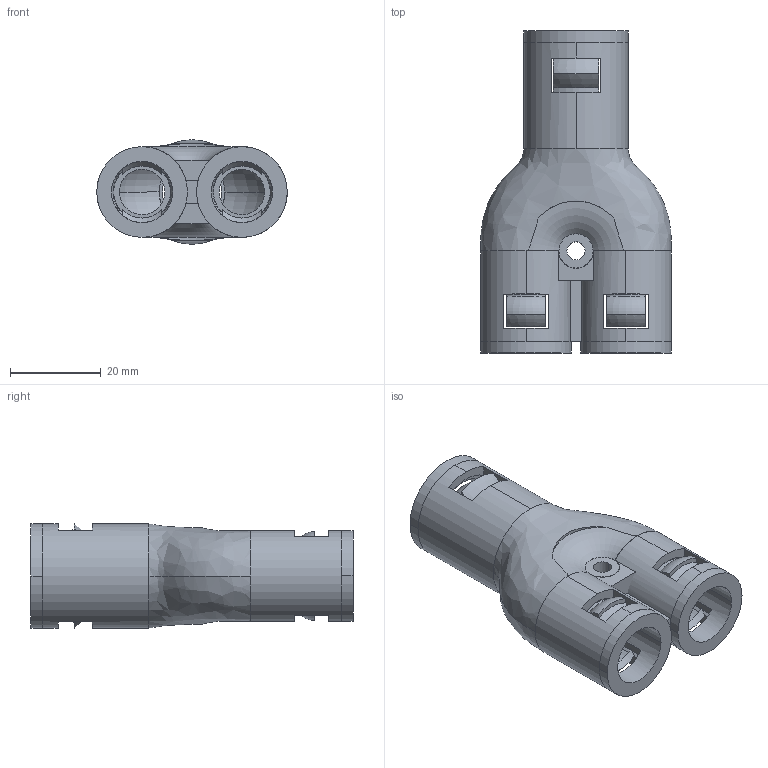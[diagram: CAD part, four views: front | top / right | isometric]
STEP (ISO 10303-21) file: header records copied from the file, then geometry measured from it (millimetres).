
FILE_DESCRIPTION (( 'STEP AP214' ), '1' );
FILE_NAME ('WQY-PA AD15.8-2x13.0.STEP', '2017-10-13T07:00:15', ( 'c' ), ( 'Microsoft' ), 'SwSTEP 2.0', 'SolidWorks 2016', '' );
FILE_SCHEMA (( 'AUTOMOTIVE_DESIGN' ));
Length unit declared in the file: millimetre
Products named in the file (6): GFD-AD15.8; GFD-AD13.0; NSK-AD13.0; NSK-AD15.8; WQY-PA-AD15.8-2X13.0-01; WQY-PA AD15.8-2x13.0
Assembly tree (7 placements, depth 2):
  WQY-PA AD15.8-2x13.0
    WQY-PA-AD15.8-2X13.0-01
    NSK-AD15.8
    NSK-AD13.0  x2
    GFD-AD13.0  x2
    GFD-AD15.8
Bounding box: 42 x 71 x 23 mm (x, y, z)
Volume: 15627.6 mm3; surface area: 22272.9 mm2
Topology: 7 solids, 13 shells, 364 faces, 903 edges, 552 vertices
Faces by surface type: cone 124, plane 120, cylinder 70, torus 48, bspline 2
Entity records: 9986 total; most frequent: CARTESIAN_POINT 2449, DIRECTION 1555, ORIENTED_EDGE 1402, EDGE_CURVE 705, AXIS2_PLACEMENT_3D 621, VERTEX_POINT 436, CIRCLE 337, VECTOR 313
